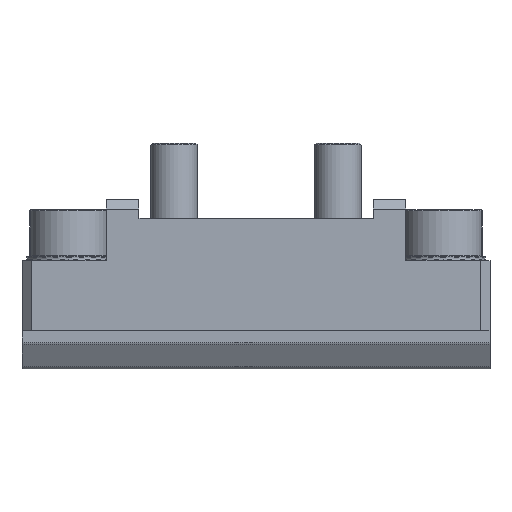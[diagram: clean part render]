
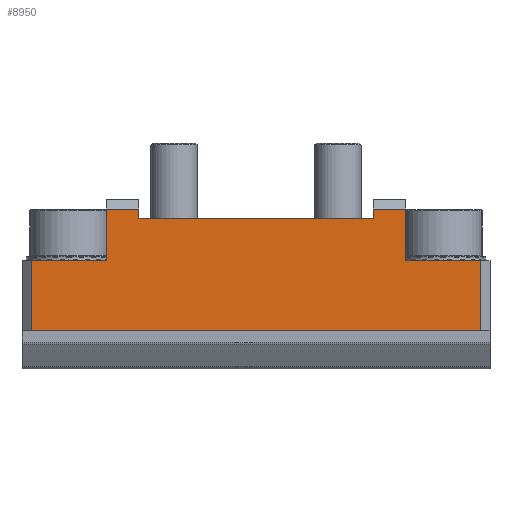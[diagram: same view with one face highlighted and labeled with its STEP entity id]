
A CAD part, top view. The second image highlights one B-rep face of the part: STEP entity #8950.
In plain terms, the highlighted planar face has unit normal (0, 0, 1).
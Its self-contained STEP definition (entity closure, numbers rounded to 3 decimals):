
#55 = VERTEX_POINT ( 'NONE', #10298 ) ;
#108 = VECTOR ( 'NONE', #10226, 1000. ) ;
#178 = VERTEX_POINT ( 'NONE', #1379 ) ;
#210 = CARTESIAN_POINT ( 'NONE',  ( 16., 14., 15. ) ) ;
#235 = PLANE ( 'NONE',  #6558 ) ;
#321 = EDGE_CURVE ( 'NONE', #3291, #5090, #3914, .T. ) ;
#345 = LINE ( 'NONE', #3616, #2631 ) ;
#367 = EDGE_CURVE ( 'NONE', #1525, #2032, #9198, .T. ) ;
#464 = VECTOR ( 'NONE', #7665, 1000. ) ;
#563 = CARTESIAN_POINT ( 'NONE',  ( -12.5, 14., 15. ) ) ;
#679 = ORIENTED_EDGE ( 'NONE', *, *, #9308, .T. ) ;
#871 = VECTOR ( 'NONE', #6974, 1000. ) ;
#913 = VERTEX_POINT ( 'NONE', #3557 ) ;
#1134 = VERTEX_POINT ( 'NONE', #2954 ) ;
#1291 = VERTEX_POINT ( 'NONE', #4583 ) ;
#1379 = CARTESIAN_POINT ( 'NONE',  ( 24., 7.5, 15. ) ) ;
#1525 = VERTEX_POINT ( 'NONE', #2697 ) ;
#1577 = LINE ( 'NONE', #2359, #5146 ) ;
#1664 = ORIENTED_EDGE ( 'NONE', *, *, #9635, .F. ) ;
#1962 = DIRECTION ( 'NONE',  ( 1., 0., 0. ) ) ;
#2020 = LINE ( 'NONE', #3043, #871 ) ;
#2032 = VERTEX_POINT ( 'NONE', #3544 ) ;
#2054 = ORIENTED_EDGE ( 'NONE', *, *, #9723, .T. ) ;
#2133 = EDGE_CURVE ( 'NONE', #2963, #1291, #8982, .T. ) ;
#2242 = FACE_OUTER_BOUND ( 'NONE', #5241, .T. ) ;
#2359 = CARTESIAN_POINT ( 'NONE',  ( -25., 13., 15. ) ) ;
#2477 = DIRECTION ( 'NONE',  ( 1., 0., 0. ) ) ;
#2631 = VECTOR ( 'NONE', #2905, 1000. ) ;
#2656 = LINE ( 'NONE', #5653, #7391 ) ;
#2697 = CARTESIAN_POINT ( 'NONE',  ( -24., 0., 15. ) ) ;
#2712 = DIRECTION ( 'NONE',  ( 0., 1., 0. ) ) ;
#2732 = CARTESIAN_POINT ( 'NONE',  ( -12.5, 12., 15. ) ) ;
#2817 = CARTESIAN_POINT ( 'NONE',  ( -16., 7.5, 15. ) ) ;
#2835 = CARTESIAN_POINT ( 'NONE',  ( 16., 13., 15. ) ) ;
#2905 = DIRECTION ( 'NONE',  ( 0., 1., 0. ) ) ;
#2954 = CARTESIAN_POINT ( 'NONE',  ( -16., 7.5, 15. ) ) ;
#2963 = VERTEX_POINT ( 'NONE', #2976 ) ;
#2976 = CARTESIAN_POINT ( 'NONE',  ( -12.5, 13., 15. ) ) ;
#3024 = DIRECTION ( 'NONE',  ( 0., -1., 0. ) ) ;
#3043 = CARTESIAN_POINT ( 'NONE',  ( -24., 0., 15. ) ) ;
#3100 = CARTESIAN_POINT ( 'NONE',  ( -24., 7.5, 15. ) ) ;
#3270 = CARTESIAN_POINT ( 'NONE',  ( -25., 7.5, 15. ) ) ;
#3291 = VERTEX_POINT ( 'NONE', #6036 ) ;
#3544 = CARTESIAN_POINT ( 'NONE',  ( 24., 0., 15. ) ) ;
#3557 = CARTESIAN_POINT ( 'NONE',  ( 16., 7.5, 15. ) ) ;
#3566 = LINE ( 'NONE', #2817, #108 ) ;
#3616 = CARTESIAN_POINT ( 'NONE',  ( 24., 0., 15. ) ) ;
#3785 = VECTOR ( 'NONE', #2712, 1000. ) ;
#3914 = LINE ( 'NONE', #10227, #3785 ) ;
#4126 = ORIENTED_EDGE ( 'NONE', *, *, #5790, .F. ) ;
#4335 = DIRECTION ( 'NONE',  ( 0., 0., 1. ) ) ;
#4435 = EDGE_CURVE ( 'NONE', #2032, #178, #345, .T. ) ;
#4583 = CARTESIAN_POINT ( 'NONE',  ( -12.5, 12., 15. ) ) ;
#4588 = ORIENTED_EDGE ( 'NONE', *, *, #8385, .F. ) ;
#4788 = VECTOR ( 'NONE', #2477, 1000. ) ;
#5074 = DIRECTION ( 'NONE',  ( 0., -1., 0. ) ) ;
#5090 = VERTEX_POINT ( 'NONE', #7188 ) ;
#5146 = VECTOR ( 'NONE', #7403, 1000. ) ;
#5241 = EDGE_LOOP ( 'NONE', ( #6037, #7841, #1664, #4126, #2054, #6528, #10607, #9386, #7602, #679, #6678, #4588 ) ) ;
#5653 = CARTESIAN_POINT ( 'NONE',  ( 16., 7.5, 15. ) ) ;
#5790 = EDGE_CURVE ( 'NONE', #8593, #1134, #9199, .T. ) ;
#5837 = VECTOR ( 'NONE', #5074, 1000. ) ;
#6036 = CARTESIAN_POINT ( 'NONE',  ( 12.5, 12., 15. ) ) ;
#6037 = ORIENTED_EDGE ( 'NONE', *, *, #2133, .F. ) ;
#6114 = VECTOR ( 'NONE', #6752, 1000. ) ;
#6262 = CARTESIAN_POINT ( 'NONE',  ( -25., 13., 15. ) ) ;
#6528 = ORIENTED_EDGE ( 'NONE', *, *, #367, .T. ) ;
#6558 = AXIS2_PLACEMENT_3D ( 'NONE', #6885, #4335, #1962 ) ;
#6678 = ORIENTED_EDGE ( 'NONE', *, *, #321, .F. ) ;
#6752 = DIRECTION ( 'NONE',  ( 1., 0., 0. ) ) ;
#6871 = CARTESIAN_POINT ( 'NONE',  ( -25., 0., 15. ) ) ;
#6885 = CARTESIAN_POINT ( 'NONE',  ( -25., 0., 15. ) ) ;
#6933 = VERTEX_POINT ( 'NONE', #2835 ) ;
#6974 = DIRECTION ( 'NONE',  ( 0., -1., 0. ) ) ;
#7077 = EDGE_CURVE ( 'NONE', #913, #178, #2656, .T. ) ;
#7158 = LINE ( 'NONE', #6262, #10547 ) ;
#7188 = CARTESIAN_POINT ( 'NONE',  ( 12.5, 13., 15. ) ) ;
#7391 = VECTOR ( 'NONE', #8957, 1000. ) ;
#7403 = DIRECTION ( 'NONE',  ( -1., 0., 0. ) ) ;
#7602 = ORIENTED_EDGE ( 'NONE', *, *, #7843, .F. ) ;
#7665 = DIRECTION ( 'NONE',  ( 1., 0., 0. ) ) ;
#7841 = ORIENTED_EDGE ( 'NONE', *, *, #9676, .T. ) ;
#7843 = EDGE_CURVE ( 'NONE', #6933, #913, #8023, .T. ) ;
#8023 = LINE ( 'NONE', #210, #5837 ) ;
#8385 = EDGE_CURVE ( 'NONE', #1291, #3291, #9478, .T. ) ;
#8593 = VERTEX_POINT ( 'NONE', #3100 ) ;
#8718 = DIRECTION ( 'NONE',  ( -1., 0., 0. ) ) ;
#8950 = ADVANCED_FACE ( 'NONE', ( #2242 ), #235, .T. ) ;
#8957 = DIRECTION ( 'NONE',  ( 1., 0., 0. ) ) ;
#8982 = LINE ( 'NONE', #563, #10292 ) ;
#9198 = LINE ( 'NONE', #6871, #464 ) ;
#9199 = LINE ( 'NONE', #3270, #4788 ) ;
#9308 = EDGE_CURVE ( 'NONE', #6933, #5090, #1577, .T. ) ;
#9386 = ORIENTED_EDGE ( 'NONE', *, *, #7077, .F. ) ;
#9478 = LINE ( 'NONE', #2732, #6114 ) ;
#9635 = EDGE_CURVE ( 'NONE', #1134, #55, #3566, .T. ) ;
#9676 = EDGE_CURVE ( 'NONE', #2963, #55, #7158, .T. ) ;
#9723 = EDGE_CURVE ( 'NONE', #8593, #1525, #2020, .T. ) ;
#10226 = DIRECTION ( 'NONE',  ( 0., 1., 0. ) ) ;
#10227 = CARTESIAN_POINT ( 'NONE',  ( 12.5, 12., 15. ) ) ;
#10292 = VECTOR ( 'NONE', #3024, 1000. ) ;
#10298 = CARTESIAN_POINT ( 'NONE',  ( -16., 13., 15. ) ) ;
#10547 = VECTOR ( 'NONE', #8718, 1000. ) ;
#10607 = ORIENTED_EDGE ( 'NONE', *, *, #4435, .T. ) ;
